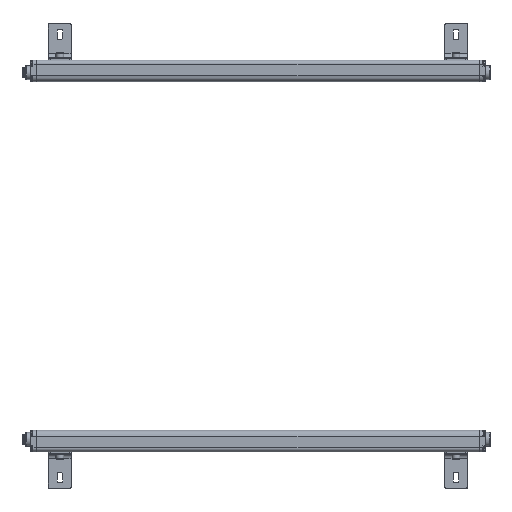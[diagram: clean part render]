
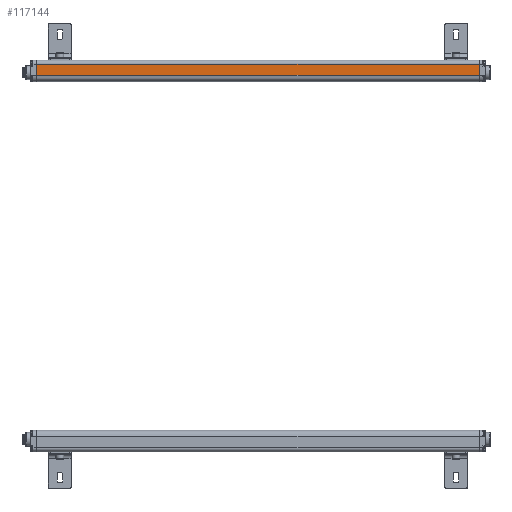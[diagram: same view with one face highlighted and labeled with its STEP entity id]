
A CAD part, left-side view. The second image highlights one B-rep face of the part: STEP entity #117144.
In plain terms, the highlighted planar face has unit normal (-1, 0, 0).
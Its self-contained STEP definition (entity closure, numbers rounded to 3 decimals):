
#265 = FACE_OUTER_BOUND ( 'NONE', #45681, .T. ) ;
#9178 = VERTEX_POINT ( 'NONE', #55996 ) ;
#15071 = ORIENTED_EDGE ( 'NONE', *, *, #27234, .T. ) ;
#21664 = CARTESIAN_POINT ( 'NONE',  ( -17.35, 565., 0. ) ) ;
#24982 = DIRECTION ( 'NONE',  ( 0., 0., 1. ) ) ;
#27234 = EDGE_CURVE ( 'NONE', #121018, #73488, #108546, .T. ) ;
#27566 = CARTESIAN_POINT ( 'NONE',  ( -17.35, 0., -6.175 ) ) ;
#36078 = PLANE ( 'NONE',  #36872 ) ;
#36872 = AXIS2_PLACEMENT_3D ( 'NONE', #134685, #133727, #24982 ) ;
#43808 = DIRECTION ( 'NONE',  ( 0., 0., 1. ) ) ;
#45681 = EDGE_LOOP ( 'NONE', ( #15071, #78329, #55430, #99681 ) ) ;
#46263 = LINE ( 'NONE', #101531, #101350 ) ;
#55430 = ORIENTED_EDGE ( 'NONE', *, *, #103370, .F. ) ;
#55996 = CARTESIAN_POINT ( 'NONE',  ( -17.35, 565., 8.225 ) ) ;
#57135 = VECTOR ( 'NONE', #85836, 1000. ) ;
#60174 = VERTEX_POINT ( 'NONE', #109192 ) ;
#63238 = CARTESIAN_POINT ( 'NONE',  ( -17.35, 0., 0. ) ) ;
#67730 = CARTESIAN_POINT ( 'NONE',  ( -17.35, 0., -6.175 ) ) ;
#73488 = VERTEX_POINT ( 'NONE', #67730 ) ;
#78329 = ORIENTED_EDGE ( 'NONE', *, *, #89842, .T. ) ;
#85836 = DIRECTION ( 'NONE',  ( 0., 0., 1. ) ) ;
#89842 = EDGE_CURVE ( 'NONE', #73488, #60174, #119137, .T. ) ;
#93062 = VECTOR ( 'NONE', #116132, 1000. ) ;
#96320 = LINE ( 'NONE', #21664, #118538 ) ;
#99681 = ORIENTED_EDGE ( 'NONE', *, *, #125705, .F. ) ;
#101350 = VECTOR ( 'NONE', #114494, 1000. ) ;
#101531 = CARTESIAN_POINT ( 'NONE',  ( -17.35, 0., 8.225 ) ) ;
#103370 = EDGE_CURVE ( 'NONE', #9178, #60174, #46263, .T. ) ;
#108546 = LINE ( 'NONE', #27566, #93062 ) ;
#109192 = CARTESIAN_POINT ( 'NONE',  ( -17.35, 0., 8.225 ) ) ;
#114494 = DIRECTION ( 'NONE',  ( 0., -1., 0. ) ) ;
#116132 = DIRECTION ( 'NONE',  ( 0., -1., 0. ) ) ;
#117144 = ADVANCED_FACE ( 'NONE', ( #265 ), #36078, .T. ) ;
#118202 = CARTESIAN_POINT ( 'NONE',  ( -17.35, 565., -6.175 ) ) ;
#118538 = VECTOR ( 'NONE', #43808, 1000. ) ;
#119137 = LINE ( 'NONE', #63238, #57135 ) ;
#121018 = VERTEX_POINT ( 'NONE', #118202 ) ;
#125705 = EDGE_CURVE ( 'NONE', #121018, #9178, #96320, .T. ) ;
#133727 = DIRECTION ( 'NONE',  ( -1., 0., 0. ) ) ;
#134685 = CARTESIAN_POINT ( 'NONE',  ( -17.35, 0., -6.175 ) ) ;
